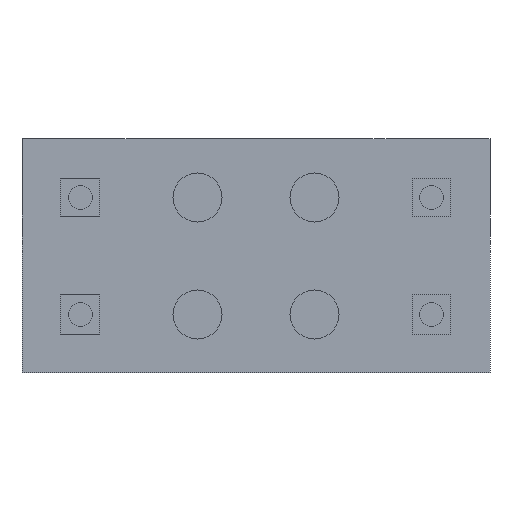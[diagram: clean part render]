
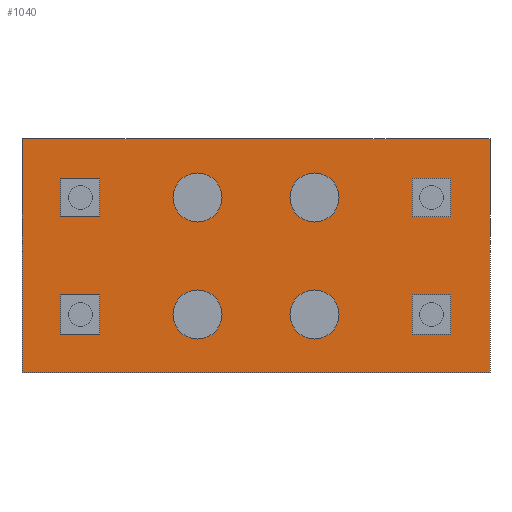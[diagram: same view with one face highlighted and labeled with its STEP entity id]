
A CAD part, front view. The second image highlights one B-rep face of the part: STEP entity #1040.
In plain terms, the highlighted planar face has unit normal (0, -1, 0).
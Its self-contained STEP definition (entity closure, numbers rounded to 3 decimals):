
#123=CARTESIAN_POINT('',(-48.5,0.,-15.));
#124=VERTEX_POINT('',#123);
#125=CARTESIAN_POINT('',(-45.,0.0,-15.));
#126=DIRECTION('',(0.0,1.0,0.0));
#127=DIRECTION('',(-1.0,0.0,0.0));
#128=AXIS2_PLACEMENT_3D('',#125,#126,#127);
#129=CIRCLE('',#128,3.5);
#130=EDGE_CURVE('',#124,#124,#129,.T.);
#140=CARTESIAN_POINT('',(-21.3,0.,-15.));
#141=VERTEX_POINT('',#140);
#142=CARTESIAN_POINT('',(-15.,0.,-15.));
#143=DIRECTION('',(0.0,1.0,0.0));
#144=DIRECTION('',(-1.0,0.0,0.0));
#145=AXIS2_PLACEMENT_3D('',#142,#143,#144);
#146=CIRCLE('',#145,6.3);
#147=EDGE_CURVE('',#141,#141,#146,.T.);
#220=CARTESIAN_POINT('',(48.5,0.,-15.));
#221=VERTEX_POINT('',#220);
#222=CARTESIAN_POINT('',(45.,0.0,-15.));
#223=DIRECTION('',(0.0,1.0,0.0));
#224=DIRECTION('',(1.0,0.0,0.0));
#225=AXIS2_PLACEMENT_3D('',#222,#223,#224);
#226=CIRCLE('',#225,3.5);
#227=EDGE_CURVE('',#221,#221,#226,.T.);
#258=CARTESIAN_POINT('',(21.3,0.,-15.));
#259=VERTEX_POINT('',#258);
#260=CARTESIAN_POINT('',(15.,0.,-15.));
#261=DIRECTION('',(0.0,1.0,0.0));
#262=DIRECTION('',(1.0,0.0,0.0));
#263=AXIS2_PLACEMENT_3D('',#260,#261,#262);
#264=CIRCLE('',#263,6.3);
#265=EDGE_CURVE('',#259,#259,#264,.T.);
#338=CARTESIAN_POINT('',(-48.5,0.,15.));
#339=VERTEX_POINT('',#338);
#340=CARTESIAN_POINT('',(-45.,0.0,15.));
#341=DIRECTION('',(0.0,1.0,0.0));
#342=DIRECTION('',(-1.0,0.0,0.0));
#343=AXIS2_PLACEMENT_3D('',#340,#341,#342);
#344=CIRCLE('',#343,3.5);
#345=EDGE_CURVE('',#339,#339,#344,.T.);
#355=CARTESIAN_POINT('',(-21.3,0.,15.));
#356=VERTEX_POINT('',#355);
#357=CARTESIAN_POINT('',(-15.,0.,15.));
#358=DIRECTION('',(0.0,1.0,0.0));
#359=DIRECTION('',(-1.0,0.0,0.0));
#360=AXIS2_PLACEMENT_3D('',#357,#358,#359);
#361=CIRCLE('',#360,6.3);
#362=EDGE_CURVE('',#356,#356,#361,.T.);
#435=CARTESIAN_POINT('',(48.5,0.,15.));
#436=VERTEX_POINT('',#435);
#437=CARTESIAN_POINT('',(45.,0.0,15.));
#438=DIRECTION('',(0.0,1.0,0.0));
#439=DIRECTION('',(1.0,0.0,0.0));
#440=AXIS2_PLACEMENT_3D('',#437,#438,#439);
#441=CIRCLE('',#440,3.5);
#442=EDGE_CURVE('',#436,#436,#441,.T.);
#473=CARTESIAN_POINT('',(21.3,0.,15.));
#474=VERTEX_POINT('',#473);
#475=CARTESIAN_POINT('',(15.,0.,15.));
#476=DIRECTION('',(0.0,1.0,0.0));
#477=DIRECTION('',(1.0,0.0,0.0));
#478=AXIS2_PLACEMENT_3D('',#475,#476,#477);
#479=CIRCLE('',#478,6.3);
#480=EDGE_CURVE('',#474,#474,#479,.T.);
#542=CARTESIAN_POINT('',(60.,0.,-30.));
#543=VERTEX_POINT('',#542);
#552=CARTESIAN_POINT('',(-60.,0.,-30.));
#553=VERTEX_POINT('',#552);
#554=CARTESIAN_POINT('',(-60.,0.,-30.));
#555=DIRECTION('',(1.0,0.0,0.0));
#556=VECTOR('',#555,120.0);
#557=LINE('',#554,#556);
#558=EDGE_CURVE('',#553,#543,#557,.T.);
#662=CARTESIAN_POINT('',(-60.,0.,30.));
#663=VERTEX_POINT('',#662);
#679=CARTESIAN_POINT('',(-60.,0.,30.));
#680=DIRECTION('',(0.0,0.0,-1.0));
#681=VECTOR('',#680,60.);
#682=LINE('',#679,#681);
#683=EDGE_CURVE('',#663,#553,#682,.T.);
#981=CARTESIAN_POINT('',(60.,0.,30.));
#982=VERTEX_POINT('',#981);
#989=CARTESIAN_POINT('',(60.,0.,-30.));
#990=DIRECTION('',(0.0,0.0,1.0));
#991=VECTOR('',#990,60.);
#992=LINE('',#989,#991);
#993=EDGE_CURVE('',#543,#982,#992,.T.);
#1000=CARTESIAN_POINT('',(60.,0.,0.0));
#1001=DIRECTION('',(0.0,-1.0,0.0));
#1002=DIRECTION('',(0.0,0.0,-1.0));
#1003=AXIS2_PLACEMENT_3D('',#1000,#1001,#1002);
#1004=PLANE('',#1003);
#1005=CARTESIAN_POINT('',(60.,0.,30.));
#1006=DIRECTION('',(-1.0,0.0,0.0));
#1007=VECTOR('',#1006,120.0);
#1008=LINE('',#1005,#1007);
#1009=EDGE_CURVE('',#982,#663,#1008,.T.);
#1010=ORIENTED_EDGE('',*,*,#1009,.T.);
#1011=ORIENTED_EDGE('',*,*,#683,.T.);
#1012=ORIENTED_EDGE('',*,*,#558,.T.);
#1013=ORIENTED_EDGE('',*,*,#993,.T.);
#1014=EDGE_LOOP('',(#1010,#1011,#1012,#1013));
#1015=FACE_OUTER_BOUND('',#1014,.T.);
#1016=ORIENTED_EDGE('',*,*,#130,.T.);
#1017=EDGE_LOOP('',(#1016));
#1018=FACE_BOUND('',#1017,.T.);
#1019=ORIENTED_EDGE('',*,*,#147,.T.);
#1020=EDGE_LOOP('',(#1019));
#1021=FACE_BOUND('',#1020,.T.);
#1022=ORIENTED_EDGE('',*,*,#227,.T.);
#1023=EDGE_LOOP('',(#1022));
#1024=FACE_BOUND('',#1023,.T.);
#1025=ORIENTED_EDGE('',*,*,#265,.T.);
#1026=EDGE_LOOP('',(#1025));
#1027=FACE_BOUND('',#1026,.T.);
#1028=ORIENTED_EDGE('',*,*,#345,.T.);
#1029=EDGE_LOOP('',(#1028));
#1030=FACE_BOUND('',#1029,.T.);
#1031=ORIENTED_EDGE('',*,*,#362,.T.);
#1032=EDGE_LOOP('',(#1031));
#1033=FACE_BOUND('',#1032,.T.);
#1034=ORIENTED_EDGE('',*,*,#442,.T.);
#1035=EDGE_LOOP('',(#1034));
#1036=FACE_BOUND('',#1035,.T.);
#1037=ORIENTED_EDGE('',*,*,#480,.T.);
#1038=EDGE_LOOP('',(#1037));
#1039=FACE_BOUND('',#1038,.T.);
#1040=ADVANCED_FACE('',(#1015,#1018,#1021,#1024,#1027,#1030,#1033,#1036,#1039),#1004,.T.);
